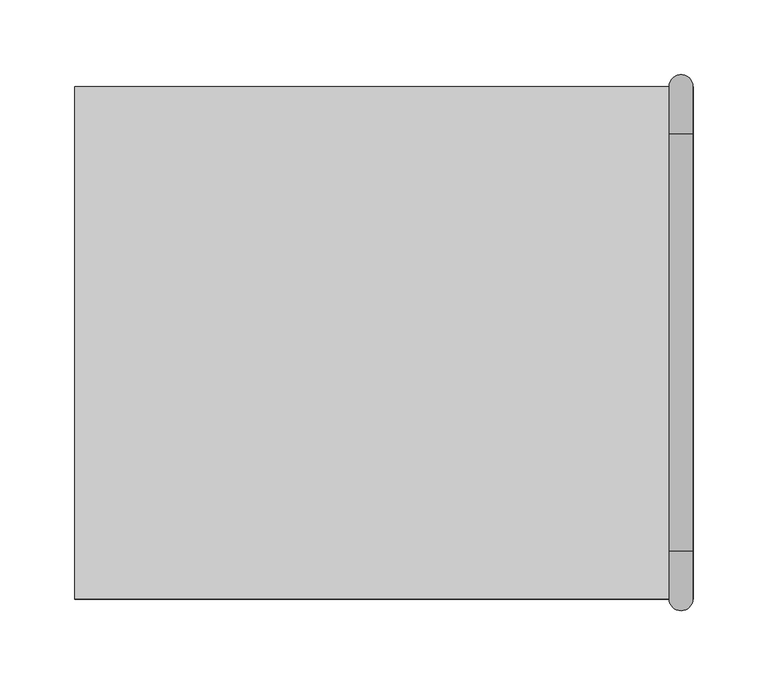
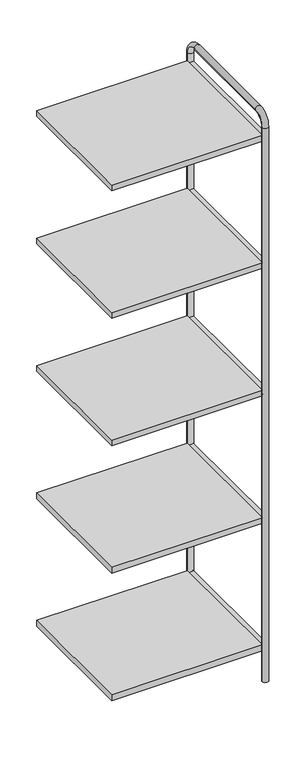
"""IFC4 building model written with IfcOpenShell, lengths in millimetres: furniture geometry, Tubbe Bookcase_Intermediate Unit_4x1 : Tubbe Bookcase_Intermediate Unit_4x1_4x5."""

from ifc_helpers import new_model, si_unit, point, frame, frame_2d, origin, place, context, project, spatial, polyline, circle_curve, ellipse_curve, trimmed, segment, composite_curve, outline, extrude, source, transform, mapped, element, save
from ifc_brep_helpers import plane_surface, cylinder_surface, revolved_surface, advanced_brep


def furniture_12945c2e(model_context):
    return source(origin(), model_context, "Body", "SolidModel", [
        extrude(outline(polyline([(199.0, 171.5), (199.0, -171.5), (-199.0, -171.5), (-199.0, 171.5), (199.0, 171.5)])), frame((0.0, 0.0, 1510.0), z_axis=(0.0, 0.0, 1.0), x_axis=(1.0, 0.0, 0.0)), (0.0, 0.0, 1.0), 16.0),
        extrude(outline(polyline([(199.0, 171.5), (199.0, -171.5), (-199.0, -171.5), (-199.0, 171.5), (199.0, 171.5)])), frame((0.0, 0.0, 1154.0), z_axis=(0.0, 0.0, 1.0), x_axis=(1.0, 0.0, 0.0)), (0.0, 0.0, 1.0), 16.0),
        extrude(outline(polyline([(199.0, 171.5), (199.0, -171.5), (-199.0, -171.5), (-199.0, 171.5), (199.0, 171.5)])), frame((0.0, 0.0, 798.0), z_axis=(0.0, 0.0, 1.0), x_axis=(1.0, 0.0, 0.0)), (0.0, 0.0, 1.0), 16.0),
        extrude(outline(polyline([(199.0, 171.5), (199.0, -171.5), (-199.0, -171.5), (-199.0, 171.5), (199.0, 171.5)])), frame((0.0, 0.0, 442.0), z_axis=(0.0, 0.0, 1.0), x_axis=(1.0, 0.0, 0.0)), (0.0, 0.0, 1.0), 16.0),
        extrude(outline(polyline([(199.0, 171.5), (199.0, -171.5), (-199.0, -171.5), (-199.0, 171.5), (199.0, 171.5)])), frame((0.0, 0.0, 86.0), z_axis=(0.0, 0.0, 1.0), x_axis=(1.0, 0.0, 0.0)), (0.0, 0.0, 1.0), 16.0),
        advanced_brep(
        [(198.7794453, 171.5, 0.0), (214.7794453, 171.5, 0.0), (198.7794453, 171.5, 1548.0), (214.7794453, 171.5, 1548.0), (214.7794453, 139.5, 1580.0), (198.7794453, 139.5, 1580.0), (198.7794453, -139.5, 1580.0), (214.7794453, -139.5, 1580.0), (214.7794453, -171.5, 1548.0), (198.7794453, -171.5, 1548.0), (198.7794453, -171.5, 0.0), (214.7794453, -171.5, 0.0)],
        [
            (0, 1, circle_curve(frame((206.7794453, 171.5, 0.0), z_axis=(0.0, 0.0, -1.0), x_axis=(1.0, 0.0, 0.0)), 8.0)),
            (1, 0, circle_curve(frame((206.7794453, 171.5, 0.0), z_axis=(0.0, 0.0, -1.0), x_axis=(1.0, 0.0, 0.0)), 8.0)),
            (0, 2),
            (2, 3, circle_curve(frame((206.7794453, 171.5, 1548.0), z_axis=(0.0, 0.0, -1.0), x_axis=(1.0, 0.0, 0.0)), 8.0)),
            (3, 1),
            (3, 2, circle_curve(frame((206.7794453, 171.5, 1548.0), z_axis=(0.0, 0.0, -1.0), x_axis=(1.0, 0.0, 0.0)), 8.0)),
            (4, 5, circle_curve(frame((206.7794453, 139.5, 1580.0), z_axis=(0.0, -1.0, 0.0), x_axis=(1.0, 0.0, 0.0)), 8.0)),
            (5, 6),
            (6, 7, circle_curve(frame((206.7794453, -139.5, 1580.0), z_axis=(0.0, 1.0, 0.0), x_axis=(1.0, 0.0, 0.0)), 8.0)),
            (7, 4),
            (5, 4, circle_curve(frame((206.7794453, 139.5, 1580.0), z_axis=(0.0, -1.0, 0.0), x_axis=(1.0, 0.0, 0.0)), 8.0)),
            (7, 6, circle_curve(frame((206.7794453, -139.5, 1580.0), z_axis=(0.0, 1.0, 0.0), x_axis=(1.0, 0.0, 0.0)), 8.0)),
            (8, 7, circle_curve(frame((214.7794453, -139.5, 1548.0), z_axis=(-1.0, 0.0, 0.0), x_axis=(0.0, 0.0, 1.0)), 32.0)),
            (6, 9, circle_curve(frame((198.7794453, -139.5, 1548.0), z_axis=(1.0, 0.0, 0.0), x_axis=(0.0, 0.0, 1.0)), 32.0)),
            (9, 8, circle_curve(frame((206.7794453, -171.5, 1548.0), z_axis=(0.0, 0.0, 1.0), x_axis=(1.0, 0.0, 0.0)), 8.0)),
            (8, 9, circle_curve(frame((206.7794453, -171.5, 1548.0), z_axis=(0.0, 0.0, 1.0), x_axis=(1.0, 0.0, 0.0)), 8.0)),
            (10, 11, circle_curve(frame((206.7794453, -171.5, 0.0), z_axis=(0.0, 0.0, -1.0), x_axis=(1.0, 0.0, 0.0)), 8.0)),
            (11, 10, circle_curve(frame((206.7794453, -171.5, 0.0), z_axis=(0.0, 0.0, -1.0), x_axis=(1.0, 0.0, 0.0)), 8.0)),
            (9, 10),
            (11, 8),
            (4, 3, circle_curve(frame((214.7794453, 139.5, 1548.0), z_axis=(-1.0, 0.0, 0.0), x_axis=(0.0, 1.0, 0.0)), 32.0)),
            (2, 5, circle_curve(frame((198.7794453, 139.5, 1548.0), z_axis=(1.0, 0.0, 0.0), x_axis=(0.0, 1.0, 0.0)), 32.0)),
        ],
        [
            plane_surface(frame((207.0, 171.5, 0.0), z_axis=(0.0, 0.0, -1.0), x_axis=(1.0, 0.0, 0.0))),
            cylinder_surface(frame((206.7794453, 171.5, 0.0), z_axis=(0.0, 0.0, -1.0), x_axis=(1.0, 0.0, 0.0)), 8.0),
            cylinder_surface(frame((206.7794453, 139.5, 1580.0), z_axis=(0.0, 1.0, 0.0), x_axis=(1.0, 0.0, 0.0)), 8.0),
            revolved_surface(trimmed(ellipse_curve(frame((206.7794453, -139.5, 1580.0), z_axis=(0.0, 1.0, 0.0), x_axis=(1.0, 0.0, 0.0)), 8.0, 8.0), [point((198.7794453, -139.5, 1580.0))], [point((214.7794453, -139.5, 1580.0))], True, "CARTESIAN"), (207.0, -139.5, 1548.0), (1.0, 0.0, 0.0)),
            revolved_surface(trimmed(ellipse_curve(frame((206.7794453, -139.5, 1580.0), z_axis=(0.0, 1.0, 0.0), x_axis=(1.0, 0.0, 0.0)), 8.0, 8.0), [point((214.7794453, -139.5, 1580.0))], [point((198.7794453, -139.5, 1580.0))], True, "CARTESIAN"), (207.0, -139.5, 1548.0), (1.0, 0.0, 0.0)),
            plane_surface(frame((207.0, -171.5, 0.0), z_axis=(0.0, 0.0, -1.0), x_axis=(1.0, 0.0, 0.0))),
            cylinder_surface(frame((206.7794453, -171.5, 1548.0), z_axis=(0.0, 0.0, 1.0), x_axis=(1.0, 0.0, 0.0)), 8.0),
            revolved_surface(trimmed(ellipse_curve(frame((206.7794453, 171.5, 1548.0), z_axis=(0.0, 0.0, -1.0), x_axis=(1.0, 0.0, 0.0)), 8.0, 8.0), [point((198.7794453, 171.5, 1548.0))], [point((214.7794453, 171.5, 1548.0))], True, "CARTESIAN"), (207.0, 139.5, 1548.0), (1.0, 0.0, 0.0)),
            revolved_surface(trimmed(ellipse_curve(frame((206.7794453, 171.5, 1548.0), z_axis=(0.0, 0.0, -1.0), x_axis=(1.0, 0.0, 0.0)), 8.0, 8.0), [point((214.7794453, 171.5, 1548.0))], [point((198.7794453, 171.5, 1548.0))], True, "CARTESIAN"), (207.0, 139.5, 1548.0), (1.0, 0.0, 0.0)),
        ],
        [
            (0, [[1, 2]]),
            (1, [[-1, 3, 4, 5]]),
            (1, [[-2, -5, 6, -3]]),
            (2, [[7, 8, 9, 10]]),
            (2, [[11, -10, 12, -8]]),
            (3, [[13, -9, 14, 15]]),
            (4, [[-14, -12, -13, 16]]),
            (5, [[17, 18]]),
            (6, [[-15, 19, -18, 20]]),
            (6, [[-16, -20, -17, -19]]),
            (7, [[21, -4, 22, -7]]),
            (8, [[-22, -6, -21, -11]]),
        ],
    ),
        extrude(outline(composite_curve([segment(trimmed(circle_curve(frame_2d((806.0, 207.0)), 8.0), [point((806.0, 199.0))], [point((806.0, 215.0))], False, "CARTESIAN"), True, "CONTINUOUS"), segment(trimmed(circle_curve(frame_2d((806.0, 207.0)), 8.0), [point((806.0, 215.0))], [point((806.0, 199.0))], False, "CARTESIAN"), True, "CONTINUOUS")], self_intersect=False)), frame((0.0, -171.5, 0.0), z_axis=(0.0, 1.0, 0.0), x_axis=(0.0, 0.0, 1.0)), (0.0, 0.0, 1.0), 343.0),
        extrude(outline(composite_curve([segment(trimmed(circle_curve(frame_2d((450.0, 207.0)), 8.0), [point((450.0, 199.0))], [point((450.0, 215.0))], False, "CARTESIAN"), True, "CONTINUOUS"), segment(trimmed(circle_curve(frame_2d((450.0, 207.0)), 8.0), [point((450.0, 215.0))], [point((450.0, 199.0))], False, "CARTESIAN"), True, "CONTINUOUS")], self_intersect=False)), frame((0.0, -171.5, 0.0), z_axis=(0.0, 1.0, 0.0), x_axis=(0.0, 0.0, 1.0)), (0.0, 0.0, 1.0), 343.0),
        extrude(outline(composite_curve([segment(trimmed(circle_curve(frame_2d((94.0, 207.0)), 8.0), [point((94.0, 199.0))], [point((94.0, 215.0))], False, "CARTESIAN"), True, "CONTINUOUS"), segment(trimmed(circle_curve(frame_2d((94.0, 207.0)), 8.0), [point((94.0, 215.0))], [point((94.0, 199.0))], False, "CARTESIAN"), True, "CONTINUOUS")], self_intersect=False)), frame((0.0, -171.5, 0.0), z_axis=(0.0, 1.0, 0.0), x_axis=(0.0, 0.0, 1.0)), (0.0, 0.0, 1.0), 343.0),
        extrude(outline(composite_curve([segment(trimmed(circle_curve(frame_2d((1518.0, 207.0)), 8.0), [point((1518.0, 199.0))], [point((1518.0, 215.0))], False, "CARTESIAN"), True, "CONTINUOUS"), segment(trimmed(circle_curve(frame_2d((1518.0, 207.0)), 8.0), [point((1518.0, 215.0))], [point((1518.0, 199.0))], False, "CARTESIAN"), True, "CONTINUOUS")], self_intersect=False)), frame((0.0, -171.5, 0.0), z_axis=(0.0, 1.0, 0.0), x_axis=(0.0, 0.0, 1.0)), (0.0, 0.0, 1.0), 343.0),
        extrude(outline(composite_curve([segment(trimmed(circle_curve(frame_2d((1162.0, 207.0)), 8.0), [point((1162.0, 199.0))], [point((1162.0, 215.0))], False, "CARTESIAN"), True, "CONTINUOUS"), segment(trimmed(circle_curve(frame_2d((1162.0, 207.0)), 8.0), [point((1162.0, 215.0))], [point((1162.0, 199.0))], False, "CARTESIAN"), True, "CONTINUOUS")], self_intersect=False)), frame((0.0, -171.5, 0.0), z_axis=(0.0, 1.0, 0.0), x_axis=(0.0, 0.0, 1.0)), (0.0, 0.0, 1.0), 343.0),
    ])


if __name__ == "__main__":
    model = new_model("IFC4")
    model_context = context("Model", 3, world=origin())
    ifc_project = project(units=[si_unit("LENGTHUNIT", "METRE", prefix="MILLI")], contexts=[model_context])
    site = spatial("IfcSite", under=ifc_project)
    building = spatial("IfcBuilding", under=site)
    placement = place(None, origin())
    furniture_shape = furniture_12945c2e(model_context)
    element("IfcFurniture", 1, ObjectType="Tubbe Bookcase_Intermediate Unit_4x1 : Tubbe Bookcase_Intermediate Unit_4x1_4x5", at=placement, inside=building, context=model_context, shape_type="MappedRepresentation", body=[
        mapped(furniture_shape, transform((0.0, 0.0, 0.0), x_axis=(1.0, 0.0, 0.0), y_axis=(0.0, 1.0, 0.0), z_axis=(0.0, 0.0, 1.0))),
    ])
    save(model, "model.ifc")
